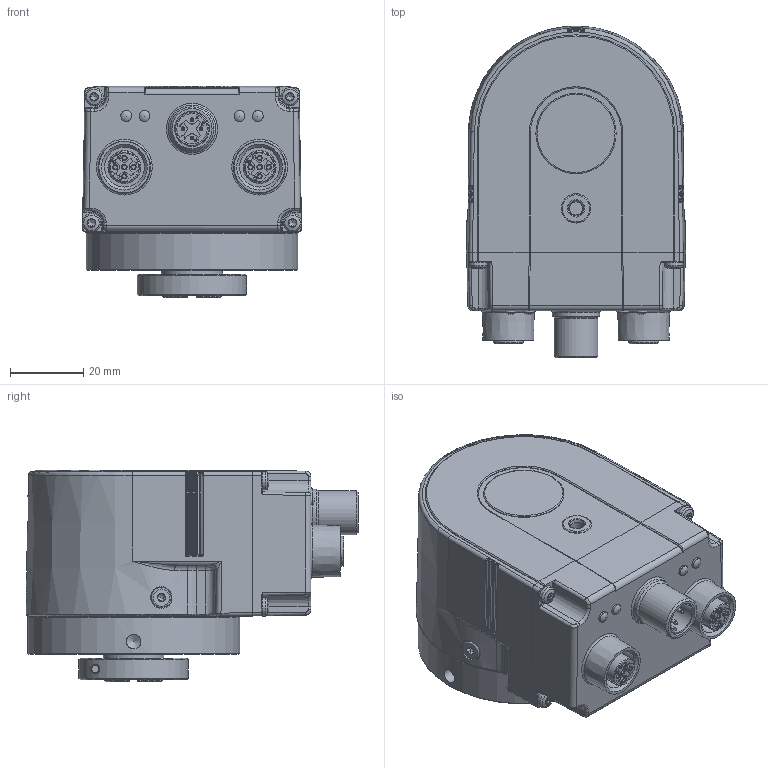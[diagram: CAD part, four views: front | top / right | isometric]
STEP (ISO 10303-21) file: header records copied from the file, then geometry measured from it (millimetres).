
FILE_DESCRIPTION( ( 'Unknown' ), '1' );
FILE_NAME( '//emea.baumernet.org/de01apps/Konstr_Zchng/3D_Zeichnung/Produkte/EAL580_neu_Feldbus/Marketing/Step_fuer_Homepage/EAL580-BNA.4WPT.xxxx0.A.stp', 'Unknown', ( 'Unknown' ), ( 'Unknown' ), 'PSStep 15.0.49', 'Unknown', ' ' );
FILE_SCHEMA( ( 'AUTOMOTIVE_DESIGN { 1 0 10303 214 1 1 1 1 }' ) );
Length unit declared in the file: millimetre
Products named in the file (1): 11159055_PhoenixContact_1411996
Bounding box: 60 x 90.86 x 57.9 mm (x, y, z)
Volume: 194069.3 mm3; surface area: 28598.6 mm2
Topology: 1 solids, 1 shells, 1207 faces, 3191 edges, 2013 vertices
Faces by surface type: plane 632, cylinder 289, cone 123, bspline 71, torus 66, sphere 26
Full cylindrical faces by diameter (mm): 1 x4, 1.05 x8, 1.1 x2, 1.7 x2, 2.459 x4, 2.5 x3, 3 x6, 3.2 x1, 4 x1, 5 x4, 5.5 x4, 6 x3, 7.5 x2, 8 x2, 8.2 x2, 8.9 x2, 9 x2, 9.45 x1, 9.6 x1, 10 x1, 10.917 x2, 12 x1, 13 x1, 16.2 x1, 16.7 x1, 16.95 x1, 17 x1, 20.2 x1, 22 x1, 23.2 x1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
Entity records: 53706 total; most frequent: CARTESIAN_POINT 15867, ORIENTED_EDGE 5784, DIRECTION 5695, EDGE_CURVE 2892, AXIS2_PLACEMENT_3D 1983, VERTEX_POINT 1923, LINE 1729, VECTOR 1729
